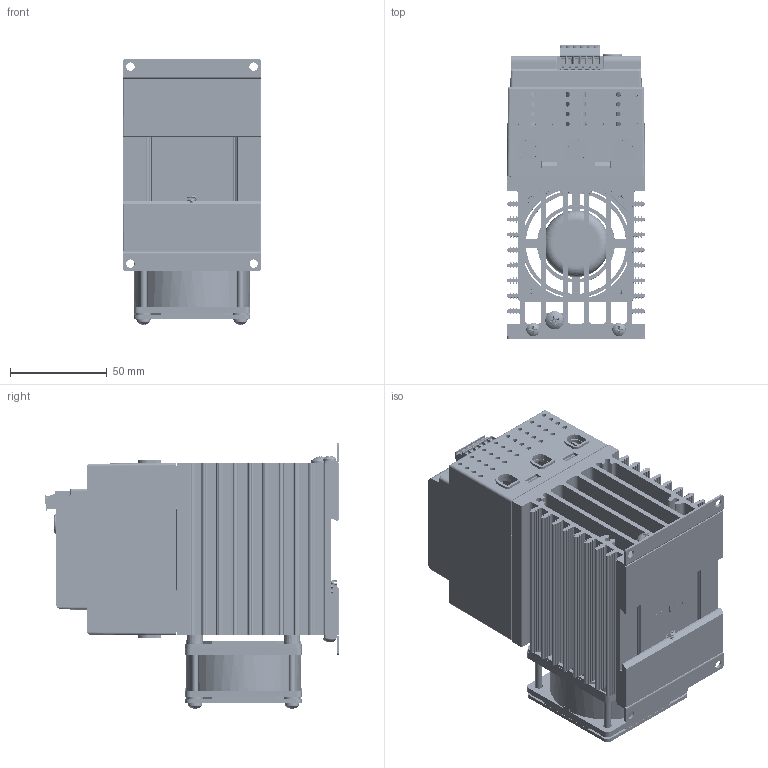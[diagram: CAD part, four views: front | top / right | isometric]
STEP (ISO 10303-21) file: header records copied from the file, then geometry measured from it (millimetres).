
FILE_DESCRIPTION(/* description */ (''),/* implementation_level */ '2;1');
FILE_NAME(/* name */ '3-phase Analog 50+80A w-tabs.stp',/* time_stamp */ '2024-11-15T09:24:15-06:00',/* author */ ('ErikG'),/* organization */ (''),/* preprocessor_version */ 'ST-DEVELOPER v20',/* originating_system */ 'Autodesk Inventor 2025',/* authorisation */ '');
FILE_SCHEMA (('AUTOMOTIVE_DESIGN { 1 0 10303 214 3 1 1 }'));
Products named in the file (29): 3001632e; 1001590e; P3; TC0203620000G; P2; usb-c31-s-vt-cs4-bk-pp-t-r-model ADAMTECH; P1; fci 6 pin header OQ06120000J0G; fci 6 pin headerOQ06120000J0G half 1; fci 5 pin header OQ05120000J0G half 2; fci 6 pin connector TS06110B00J0G; fci 5 pin connector TS05110B00J0G LEFT HALF; fci 5 pin connector TS05110B00J0G RIGHT HALF; 3001767; 3001760; 3001759; 3001766; 3001765b; 3001746; spring; 0060783-0610-010.ipt; 0060702-1032-0375; 0060002-0632-1175; 62111-0006-0; 3001772; 3001773; 2R36_SQ_FAN_1R0 depth; 3001753; 0060002-0632-0375
Assembly tree (39 placements, depth 6):
  3001632e
    1001590e
      P3
        TC0203620000G
      P2
        usb-c31-s-vt-cs4-bk-pp-t-r-model ADAMTECH
      P1
        fci 6 pin header OQ06120000J0G
          fci 6 pin headerOQ06120000J0G half 1
          fci 5 pin header OQ05120000J0G half 2
          fci 6 pin connector TS06110B00J0G
            fci 5 pin connector TS05110B00J0G LEFT HALF
            fci 5 pin connector TS05110B00J0G RIGHT HALF
    3001767
    3001760  x2
    3001759
    3001766
    3001765b
    3001746
    spring
    0060783-0610-010.ipt
    0060702-1032-0375
    0060002-0632-1175  x4
    62111-0006-0  x4
    3001772
    3001773
    2R36_SQ_FAN_1R0 depth
    3001753  x2
    0060002-0632-0375  x4
Bounding box: 71.12 x 151.53 x 136.93 mm (x, y, z)
Volume: 341744.7 mm3; surface area: 301191.4 mm2
Topology: 34 solids, 128 shells, 7106 faces, 19729 edges, 13013 vertices
Faces by surface type: plane 4850, cylinder 1545, cone 446, bspline 146, torus 108, sphere 11
Full cylindrical faces by diameter (mm): 0.254 x1, 0.45 x2, 0.55 x2, 0.65 x2, 1 x6, 1.75 x2, 2.15 x12, 2.3 x12, 2.54 x2, 2.642 x6, 2.7 x2, 2.8 x4, 2.95 x6, 3.277 x4, 3.505 x8, 3.6 x2, 4.293 x8, 4.318 x8, 4.826 x1, 4.917 x1, 6 x1, 6.172 x1, 6.858 x8, 7.493 x8, 7.976 x1, 9.474 x1, 34.29 x1, 57.15 x1, 59.69 x1
Entity records: 238386 total; most frequent: CARTESIAN_POINT 65754, ORIENTED_EDGE 36836, DIRECTION 34279, EDGE_CURVE 18418, LINE 13373, VECTOR 13373, VERTEX_POINT 12151, AXIS2_PLACEMENT_3D 10453
